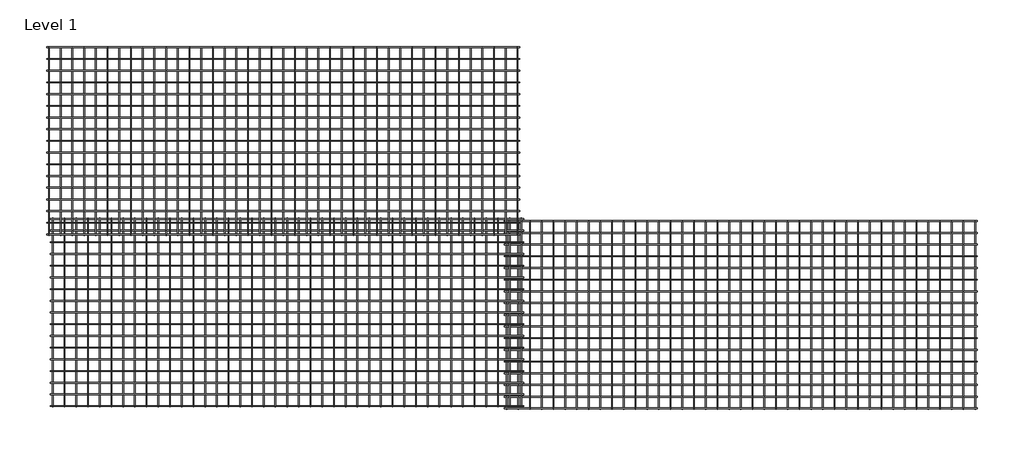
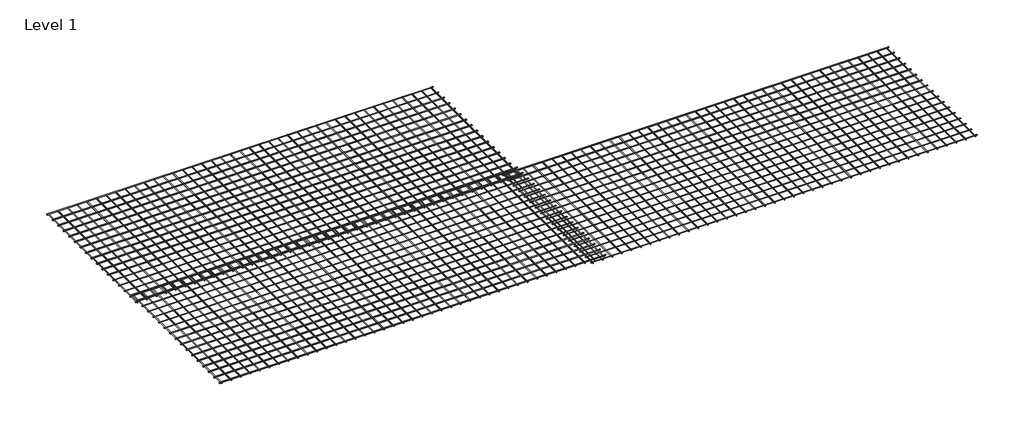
# One storey: 3 proxies.
"""IFC4 building model written with IfcOpenShell, lengths in millimetres."""

import ifcopenshell
import ifcopenshell.guid

model = None  # the IFC model being written
_history = None  # IfcOwnerHistory: only IFC2X3 demands one
_inside = {}  # id of a spatial element -> (the spatial element, [elements in it])
_under = {}  # id of a project, library or spatial element -> (it, [spatial elements below it])
_declared = {}  # id of a project -> (the project, [libraries it declares])
_typed = {}  # id of a type object -> (the type object, [elements of that type])
_made_of = {}  # id of a material, layer set ... -> (it, [elements and type objects made of it])


def new_model(schema):
    """Start an empty IFC model of exactly this schema.

    Asked for "IFC4X3", IfcOpenShell would pick the latest addendum, in which some entities
    have other attributes; the version numbers below select the first issue.
    IFC2X3 requires an IfcOwnerHistory on every rooted entity: one is made here for all.
    """
    global model, _history
    if schema == "IFC4X3":
        model = ifcopenshell.file(schema_version=(4, 3, 0, 0))
    else:
        model = ifcopenshell.file(schema=schema)
    _inside.clear()
    _under.clear()
    _declared.clear()
    _typed.clear()
    _made_of.clear()
    _history = None
    if model.schema == "IFC2X3":
        org = make("IfcOrganization", Name="unknown")
        user = make(
            "IfcPersonAndOrganization",
            ThePerson=make("IfcPerson", FamilyName="unknown"),
            TheOrganization=org,
        )
        app = make(
            "IfcApplication",
            ApplicationDeveloper=org,
            Version="unknown",
            ApplicationFullName="unknown",
            ApplicationIdentifier="unknown",
        )
        _history = make(
            "IfcOwnerHistory",
            OwningUser=user,
            OwningApplication=app,
            ChangeAction="ADDED",
            CreationDate=0,
        )
    return model


def make(cls, **values):
    """One entity of the class cls with the attributes given. An attribute that is None is left unset."""
    return model.create_entity(
        cls, **{name: value for name, value in values.items() if value is not None}
    )


def rooted(cls, **values):
    """An entity with a GlobalId (a new one), such as an element, a storey or a relation."""
    return make(cls, GlobalId=ifcopenshell.guid.new(), OwnerHistory=_history, **values)


def si_unit(unit_type, name, prefix=None):
    """IfcSIUnit, for example si_unit("LENGTHUNIT", "METRE", prefix="MILLI")."""
    return make("IfcSIUnit", UnitType=unit_type, Prefix=prefix, Name=name)


def assignment(units):
    """IfcUnitAssignment: the units of a project."""
    return None if units is None else make("IfcUnitAssignment", Units=units)


def point(xyz):
    """IfcCartesianPoint."""
    return None if xyz is None else make("IfcCartesianPoint", Coordinates=xyz)


def direction(xyz):
    """IfcDirection."""
    return None if xyz is None else make("IfcDirection", DirectionRatios=xyz)


def frame(location, z_axis=None, x_axis=None):
    """IfcAxis2Placement3D, a coordinate frame: its origin and axes. An axis left out is left unset."""
    return make(
        "IfcAxis2Placement3D",
        Location=point(location),
        Axis=direction(z_axis),
        RefDirection=direction(x_axis),
    )


def frame_2d(location, x_axis=None):
    """IfcAxis2Placement2D, a coordinate frame in the plane: its origin and x axis."""
    return make(
        "IfcAxis2Placement2D", Location=point(location), RefDirection=direction(x_axis)
    )


def origin():
    """The frame at (0, 0, 0) with its axes left unset."""
    return frame((0.0, 0.0, 0.0))


def place(relative_to, where):
    """IfcLocalPlacement: puts the frame where relative to a parent placement (None: the world)."""
    return make(
        "IfcLocalPlacement", PlacementRelTo=relative_to, RelativePlacement=where
    )


def context(
    kind, dimensions, precision=None, world=None, true_north=None, identifier=None
):
    """IfcGeometricRepresentationContext, for example the 3D "Model" context."""
    return make(
        "IfcGeometricRepresentationContext",
        ContextIdentifier=identifier,
        ContextType=kind,
        CoordinateSpaceDimension=dimensions,
        Precision=precision,
        WorldCoordinateSystem=world,
        TrueNorth=true_north,
    )


def project(units=None, contexts=None):
    """IfcProject with its units and contexts."""
    return rooted(
        "IfcProject",
        Name="project",
        RepresentationContexts=contexts,
        UnitsInContext=assignment(units),
    )


def spatial(cls, under=None, at=None, **own):
    """A site, building, storey or space (cls), placed at a placement, below another one or the project."""
    s = rooted(cls, ObjectPlacement=at, **own)
    if under is not None:
        _under.setdefault(under.id(), (under, []))[1].append(s)
    return s


def circle_curve(where, radius):
    """IfcCircle in the frame where."""
    return make("IfcCircle", Position=where, Radius=radius)


def trimmed(basis, trim1, trim2, sense, master):
    """IfcTrimmedCurve: the piece of a basis curve between two trims."""
    return make(
        "IfcTrimmedCurve",
        BasisCurve=basis,
        Trim1=trim1,
        Trim2=trim2,
        SenseAgreement=sense,
        MasterRepresentation=master,
    )


def segment(curve, same_sense, transition):
    """IfcCompositeCurveSegment."""
    return make(
        "IfcCompositeCurveSegment",
        Transition=transition,
        SameSense=same_sense,
        ParentCurve=curve,
    )


def composite_curve(segments, self_intersect=None):
    """IfcCompositeCurve: segments joined end to end."""
    return make("IfcCompositeCurve", Segments=segments, SelfIntersect=self_intersect)


def outline(outer, holes=None, kind="AREA"):
    """IfcArbitraryClosedProfileDef: a profile drawn as a closed curve; with holes, ...WithVoids."""
    if holes is None:
        return make("IfcArbitraryClosedProfileDef", ProfileType=kind, OuterCurve=outer)
    return make(
        "IfcArbitraryProfileDefWithVoids",
        ProfileType=kind,
        OuterCurve=outer,
        InnerCurves=holes,
    )


def extrude(swept, where, along, depth):
    """IfcExtrudedAreaSolid: the profile swept, set in the frame where, extruded along a direction by depth."""
    return make(
        "IfcExtrudedAreaSolid",
        SweptArea=swept,
        Position=where,
        ExtrudedDirection=direction(along),
        Depth=depth,
    )


def shape(context_of_items, identifier, shape_type, items):
    """IfcShapeRepresentation: the items that make up one representation, for example the "Body"."""
    return make(
        "IfcShapeRepresentation",
        ContextOfItems=context_of_items,
        RepresentationIdentifier=identifier,
        RepresentationType=shape_type,
        Items=items,
    )


def source(mapping_origin, context_of_items, identifier, shape_type, items):
    """IfcRepresentationMap: a shape defined once, which mapped items show again and again."""
    return make(
        "IfcRepresentationMap",
        MappingOrigin=mapping_origin,
        MappedRepresentation=shape(context_of_items, identifier, shape_type, items),
    )


def transform(
    local_origin,
    x_axis=None,
    y_axis=None,
    z_axis=None,
    scale=None,
    scale2=None,
    scale3=None,
    uniform=True,
):
    """IfcCartesianTransformationOperator3D, or its non-uniform kind. x_axis, y_axis, z_axis: its Axis1, 2, 3."""
    if uniform:
        return make(
            "IfcCartesianTransformationOperator3D",
            Axis1=direction(x_axis),
            Axis2=direction(y_axis),
            LocalOrigin=point(local_origin),
            Scale=scale,
            Axis3=direction(z_axis),
        )
    return make(
        "IfcCartesianTransformationOperator3DnonUniform",
        Axis1=direction(x_axis),
        Axis2=direction(y_axis),
        LocalOrigin=point(local_origin),
        Scale=scale,
        Axis3=direction(z_axis),
        Scale2=scale2,
        Scale3=scale3,
    )


def mapped(mapping_source, mapping_target):
    """IfcMappedItem: shows the shape of a source again, moved by a transform."""
    return make(
        "IfcMappedItem", MappingSource=mapping_source, MappingTarget=mapping_target
    )


def made_of(thing, what):
    """Note that an element or type object is made of a material, layer set ...; save() writes the relation."""
    if what is not None:
        _made_of.setdefault(what.id(), (what, []))[1].append(thing)
    return thing


def element(
    cls,
    number,
    at=None,
    inside=None,
    cuts=None,
    type_object=None,
    material=None,
    context=None,
    identifier="Body",
    shape_type=None,
    held_by="IfcProductDefinitionShape",
    body=None,
    shapes=None,
    **own,
):
    """One element of the class cls, such as IfcWall. Its Tag is "e" and its number.

    at: its placement. inside: the storey or other place that contains it. cuts: it is an
    opening in that element (IfcRelVoidsElement). A single representation is given by context,
    identifier, shape_type and body (its items); several are given by shapes. held_by: the class
    of the entity that holds the representations. save() writes the other relations.
    """
    e = rooted(cls, Tag="e%d" % number, ObjectPlacement=at, **own)
    if body is not None:
        shapes = [shape(context, identifier, shape_type, body)]
    if shapes is not None:
        e.Representation = make(held_by, Representations=shapes)
    if inside is not None:
        _inside.setdefault(inside.id(), (inside, []))[1].append(e)
    if cuts is not None:
        rooted(
            "IfcRelVoidsElement", RelatingBuildingElement=cuts, RelatedOpeningElement=e
        )
    if type_object is not None:
        _typed.setdefault(type_object.id(), (type_object, []))[1].append(e)
    return made_of(e, material)


def aggregate(whole, parts):
    """IfcRelAggregates: a whole, such as a stair, and the parts it consists of."""
    return rooted("IfcRelAggregates", RelatingObject=whole, RelatedObjects=parts)


def save(model, path):
    """Write the relations noted so far, then the file.

    IfcRelAggregates (storeys below a building ...), IfcRelContainedInSpatialStructure (elements
    in a storey), IfcRelDefinesByType, IfcRelAssociatesMaterial and IfcRelDeclares: one each for
    every whole, place, type object, material and project.
    """
    for whole, parts in _under.values():
        aggregate(whole, parts)
    for where, things in _inside.values():
        rooted(
            "IfcRelContainedInSpatialStructure",
            RelatedElements=things,
            RelatingStructure=where,
        )
    for kind, things in _typed.values():
        rooted("IfcRelDefinesByType", RelatedObjects=things, RelatingType=kind)
    for what, things in _made_of.values():
        rooted("IfcRelAssociatesMaterial", RelatedObjects=things, RelatingMaterial=what)
    for by, libraries in _declared.values():
        rooted("IfcRelDeclares", RelatingContext=by, RelatedDefinitions=libraries)
    model.write(path)


def united_steel_665_large_mesh_united_steel_665_large_mesh_bb33bdd1(model_context):
    return source(origin(), model_context, "Body", "SweptSolid", [
        extrude(outline(composite_curve([segment(trimmed(circle_curve(frame_2d((-160.2412954, 15.8848475)), 5.3), [point((-165.5412954, 15.8848475))], [point((-154.9412954, 15.8848475))], False, "CARTESIAN"), True, "CONTINUOUS"), segment(trimmed(circle_curve(frame_2d((-160.2412954, 15.8848475)), 5.3), [point((-154.9412954, 15.8848475))], [point((-165.5412954, 15.8848475))], False, "CARTESIAN"), True, "CONTINUOUS")], self_intersect=False)), frame((-6060.0, 0.0, 0.0), z_axis=(1.0, 0.0, 0.0), x_axis=(0.0, 1.0, 0.0)), (0.0, 0.0, 1.0), 6060.0),
        extrude(outline(composite_curve([segment(trimmed(circle_curve(frame_2d((-310.2279647, 15.8848475)), 5.3), [point((-315.5279647, 15.8848475))], [point((-304.9279647, 15.8848475))], False, "CARTESIAN"), True, "CONTINUOUS"), segment(trimmed(circle_curve(frame_2d((-310.2279647, 15.8848475)), 5.3), [point((-304.9279647, 15.8848475))], [point((-315.5279647, 15.8848475))], False, "CARTESIAN"), True, "CONTINUOUS")], self_intersect=False)), frame((-6060.0, 0.0, 0.0), z_axis=(1.0, 0.0, 0.0), x_axis=(0.0, 1.0, 0.0)), (0.0, 0.0, 1.0), 6060.0),
        extrude(outline(composite_curve([segment(trimmed(circle_curve(frame_2d((-460.214634, 15.8848475)), 5.3), [point((-465.514634, 15.8848475))], [point((-454.914634, 15.8848475))], False, "CARTESIAN"), True, "CONTINUOUS"), segment(trimmed(circle_curve(frame_2d((-460.214634, 15.8848475)), 5.3), [point((-454.914634, 15.8848475))], [point((-465.514634, 15.8848475))], False, "CARTESIAN"), True, "CONTINUOUS")], self_intersect=False)), frame((-6060.0, 0.0, 0.0), z_axis=(1.0, 0.0, 0.0), x_axis=(0.0, 1.0, 0.0)), (0.0, 0.0, 1.0), 6060.0),
        extrude(outline(composite_curve([segment(trimmed(circle_curve(frame_2d((5.2898928, -5879.1179494)), 5.3), [point((5.2898928, -5884.4179494))], [point((5.2898928, -5873.8179494))], False, "CARTESIAN"), True, "CONTINUOUS"), segment(trimmed(circle_curve(frame_2d((5.2898928, -5879.1179494)), 5.3), [point((5.2898928, -5873.8179494))], [point((5.2898928, -5884.4179494))], False, "CARTESIAN"), True, "CONTINUOUS")], self_intersect=False)), frame((0.0, -2420.0, 0.0), z_axis=(0.0, 1.0, 0.0), x_axis=(0.0, 0.0, 1.0)), (0.0, 0.0, 1.0), 2420.0),
        extrude(outline(composite_curve([segment(trimmed(circle_curve(frame_2d((5.2898928, -5729.136548)), 5.3), [point((5.2898928, -5734.436548))], [point((5.2898928, -5723.836548))], False, "CARTESIAN"), True, "CONTINUOUS"), segment(trimmed(circle_curve(frame_2d((5.2898928, -5729.136548)), 5.3), [point((5.2898928, -5723.836548))], [point((5.2898928, -5734.436548))], False, "CARTESIAN"), True, "CONTINUOUS")], self_intersect=False)), frame((0.0, -2420.0, 0.0), z_axis=(0.0, 1.0, 0.0), x_axis=(0.0, 0.0, 1.0)), (0.0, 0.0, 1.0), 2420.0),
        extrude(outline(composite_curve([segment(trimmed(circle_curve(frame_2d((5.2898928, -5579.1551467)), 5.3), [point((5.2898928, -5584.4551467))], [point((5.2898928, -5573.8551467))], False, "CARTESIAN"), True, "CONTINUOUS"), segment(trimmed(circle_curve(frame_2d((5.2898928, -5579.1551467)), 5.3), [point((5.2898928, -5573.8551467))], [point((5.2898928, -5584.4551467))], False, "CARTESIAN"), True, "CONTINUOUS")], self_intersect=False)), frame((0.0, -2420.0, 0.0), z_axis=(0.0, 1.0, 0.0), x_axis=(0.0, 0.0, 1.0)), (0.0, 0.0, 1.0), 2420.0),
        extrude(outline(composite_curve([segment(trimmed(circle_curve(frame_2d((5.2898928, -5429.1737454)), 5.3), [point((5.2898928, -5434.4737454))], [point((5.2898928, -5423.8737454))], False, "CARTESIAN"), True, "CONTINUOUS"), segment(trimmed(circle_curve(frame_2d((5.2898928, -5429.1737454)), 5.3), [point((5.2898928, -5423.8737454))], [point((5.2898928, -5434.4737454))], False, "CARTESIAN"), True, "CONTINUOUS")], self_intersect=False)), frame((0.0, -2420.0, 0.0), z_axis=(0.0, 1.0, 0.0), x_axis=(0.0, 0.0, 1.0)), (0.0, 0.0, 1.0), 2420.0),
        extrude(outline(composite_curve([segment(trimmed(circle_curve(frame_2d((5.2898928, -5279.1923441)), 5.3), [point((5.2898928, -5284.4923441))], [point((5.2898928, -5273.8923441))], False, "CARTESIAN"), True, "CONTINUOUS"), segment(trimmed(circle_curve(frame_2d((5.2898928, -5279.1923441)), 5.3), [point((5.2898928, -5273.8923441))], [point((5.2898928, -5284.4923441))], False, "CARTESIAN"), True, "CONTINUOUS")], self_intersect=False)), frame((0.0, -2420.0, 0.0), z_axis=(0.0, 1.0, 0.0), x_axis=(0.0, 0.0, 1.0)), (0.0, 0.0, 1.0), 2420.0),
        extrude(outline(composite_curve([segment(trimmed(circle_curve(frame_2d((5.2898928, -5129.2109428)), 5.3), [point((5.2898928, -5134.5109428))], [point((5.2898928, -5123.9109428))], False, "CARTESIAN"), True, "CONTINUOUS"), segment(trimmed(circle_curve(frame_2d((5.2898928, -5129.2109428)), 5.3), [point((5.2898928, -5123.9109428))], [point((5.2898928, -5134.5109428))], False, "CARTESIAN"), True, "CONTINUOUS")], self_intersect=False)), frame((0.0, -2420.0, 0.0), z_axis=(0.0, 1.0, 0.0), x_axis=(0.0, 0.0, 1.0)), (0.0, 0.0, 1.0), 2420.0),
        extrude(outline(composite_curve([segment(trimmed(circle_curve(frame_2d((5.2898928, -4979.2295415)), 5.3), [point((5.2898928, -4984.5295415))], [point((5.2898928, -4973.9295415))], False, "CARTESIAN"), True, "CONTINUOUS"), segment(trimmed(circle_curve(frame_2d((5.2898928, -4979.2295415)), 5.3), [point((5.2898928, -4973.9295415))], [point((5.2898928, -4984.5295415))], False, "CARTESIAN"), True, "CONTINUOUS")], self_intersect=False)), frame((0.0, -2420.0, 0.0), z_axis=(0.0, 1.0, 0.0), x_axis=(0.0, 0.0, 1.0)), (0.0, 0.0, 1.0), 2420.0),
        extrude(outline(composite_curve([segment(trimmed(circle_curve(frame_2d((5.2898928, -4829.2481401)), 5.3), [point((5.2898928, -4834.5481401))], [point((5.2898928, -4823.9481401))], False, "CARTESIAN"), True, "CONTINUOUS"), segment(trimmed(circle_curve(frame_2d((5.2898928, -4829.2481401)), 5.3), [point((5.2898928, -4823.9481401))], [point((5.2898928, -4834.5481401))], False, "CARTESIAN"), True, "CONTINUOUS")], self_intersect=False)), frame((0.0, -2420.0, 0.0), z_axis=(0.0, 1.0, 0.0), x_axis=(0.0, 0.0, 1.0)), (0.0, 0.0, 1.0), 2420.0),
        extrude(outline(composite_curve([segment(trimmed(circle_curve(frame_2d((5.2898928, -4679.2667388)), 5.3), [point((5.2898928, -4684.5667388))], [point((5.2898928, -4673.9667388))], False, "CARTESIAN"), True, "CONTINUOUS"), segment(trimmed(circle_curve(frame_2d((5.2898928, -4679.2667388)), 5.3), [point((5.2898928, -4673.9667388))], [point((5.2898928, -4684.5667388))], False, "CARTESIAN"), True, "CONTINUOUS")], self_intersect=False)), frame((0.0, -2420.0, 0.0), z_axis=(0.0, 1.0, 0.0), x_axis=(0.0, 0.0, 1.0)), (0.0, 0.0, 1.0), 2420.0),
        extrude(outline(composite_curve([segment(trimmed(circle_curve(frame_2d((5.2898928, -4529.2853375)), 5.3), [point((5.2898928, -4534.5853375))], [point((5.2898928, -4523.9853375))], False, "CARTESIAN"), True, "CONTINUOUS"), segment(trimmed(circle_curve(frame_2d((5.2898928, -4529.2853375)), 5.3), [point((5.2898928, -4523.9853375))], [point((5.2898928, -4534.5853375))], False, "CARTESIAN"), True, "CONTINUOUS")], self_intersect=False)), frame((0.0, -2420.0, 0.0), z_axis=(0.0, 1.0, 0.0), x_axis=(0.0, 0.0, 1.0)), (0.0, 0.0, 1.0), 2420.0),
        extrude(outline(composite_curve([segment(trimmed(circle_curve(frame_2d((-610.2013032, 15.8848475)), 5.3), [point((-615.5013032, 15.8848475))], [point((-604.9013032, 15.8848475))], False, "CARTESIAN"), True, "CONTINUOUS"), segment(trimmed(circle_curve(frame_2d((-610.2013032, 15.8848475)), 5.3), [point((-604.9013032, 15.8848475))], [point((-615.5013032, 15.8848475))], False, "CARTESIAN"), True, "CONTINUOUS")], self_intersect=False)), frame((-6060.0, 0.0, 0.0), z_axis=(1.0, 0.0, 0.0), x_axis=(0.0, 1.0, 0.0)), (0.0, 0.0, 1.0), 6060.0),
        extrude(outline(composite_curve([segment(trimmed(circle_curve(frame_2d((5.2898928, -4379.3039362)), 5.3), [point((5.2898928, -4384.6039362))], [point((5.2898928, -4374.0039362))], False, "CARTESIAN"), True, "CONTINUOUS"), segment(trimmed(circle_curve(frame_2d((5.2898928, -4379.3039362)), 5.3), [point((5.2898928, -4374.0039362))], [point((5.2898928, -4384.6039362))], False, "CARTESIAN"), True, "CONTINUOUS")], self_intersect=False)), frame((0.0, -2420.0, 0.0), z_axis=(0.0, 1.0, 0.0), x_axis=(0.0, 0.0, 1.0)), (0.0, 0.0, 1.0), 2420.0),
        extrude(outline(composite_curve([segment(trimmed(circle_curve(frame_2d((-760.1879725, 15.8848475)), 5.3), [point((-765.4879725, 15.8848475))], [point((-754.8879725, 15.8848475))], False, "CARTESIAN"), True, "CONTINUOUS"), segment(trimmed(circle_curve(frame_2d((-760.1879725, 15.8848475)), 5.3), [point((-754.8879725, 15.8848475))], [point((-765.4879725, 15.8848475))], False, "CARTESIAN"), True, "CONTINUOUS")], self_intersect=False)), frame((-6060.0, 0.0, 0.0), z_axis=(1.0, 0.0, 0.0), x_axis=(0.0, 1.0, 0.0)), (0.0, 0.0, 1.0), 6060.0),
        extrude(outline(composite_curve([segment(trimmed(circle_curve(frame_2d((-910.1746417, 15.8848475)), 5.3), [point((-915.4746417, 15.8848475))], [point((-904.8746417, 15.8848475))], False, "CARTESIAN"), True, "CONTINUOUS"), segment(trimmed(circle_curve(frame_2d((-910.1746417, 15.8848475)), 5.3), [point((-904.8746417, 15.8848475))], [point((-915.4746417, 15.8848475))], False, "CARTESIAN"), True, "CONTINUOUS")], self_intersect=False)), frame((-6060.0, 0.0, 0.0), z_axis=(1.0, 0.0, 0.0), x_axis=(0.0, 1.0, 0.0)), (0.0, 0.0, 1.0), 6060.0),
        extrude(outline(composite_curve([segment(trimmed(circle_curve(frame_2d((5.2898928, -4229.3225349)), 5.3), [point((5.2898928, -4234.6225349))], [point((5.2898928, -4224.0225349))], False, "CARTESIAN"), True, "CONTINUOUS"), segment(trimmed(circle_curve(frame_2d((5.2898928, -4229.3225349)), 5.3), [point((5.2898928, -4224.0225349))], [point((5.2898928, -4234.6225349))], False, "CARTESIAN"), True, "CONTINUOUS")], self_intersect=False)), frame((0.0, -2420.0, 0.0), z_axis=(0.0, 1.0, 0.0), x_axis=(0.0, 0.0, 1.0)), (0.0, 0.0, 1.0), 2420.0),
        extrude(outline(composite_curve([segment(trimmed(circle_curve(frame_2d((5.2898928, -4079.3411336)), 5.3), [point((5.2898928, -4084.6411336))], [point((5.2898928, -4074.0411336))], False, "CARTESIAN"), True, "CONTINUOUS"), segment(trimmed(circle_curve(frame_2d((5.2898928, -4079.3411336)), 5.3), [point((5.2898928, -4074.0411336))], [point((5.2898928, -4084.6411336))], False, "CARTESIAN"), True, "CONTINUOUS")], self_intersect=False)), frame((0.0, -2420.0, 0.0), z_axis=(0.0, 1.0, 0.0), x_axis=(0.0, 0.0, 1.0)), (0.0, 0.0, 1.0), 2420.0),
        extrude(outline(composite_curve([segment(trimmed(circle_curve(frame_2d((5.2898928, -3929.3597323)), 5.3), [point((5.2898928, -3934.6597323))], [point((5.2898928, -3924.0597323))], False, "CARTESIAN"), True, "CONTINUOUS"), segment(trimmed(circle_curve(frame_2d((5.2898928, -3929.3597323)), 5.3), [point((5.2898928, -3924.0597323))], [point((5.2898928, -3934.6597323))], False, "CARTESIAN"), True, "CONTINUOUS")], self_intersect=False)), frame((0.0, -2420.0, 0.0), z_axis=(0.0, 1.0, 0.0), x_axis=(0.0, 0.0, 1.0)), (0.0, 0.0, 1.0), 2420.0),
        extrude(outline(composite_curve([segment(trimmed(circle_curve(frame_2d((5.2898928, -3779.3783309)), 5.3), [point((5.2898928, -3784.6783309))], [point((5.2898928, -3774.0783309))], False, "CARTESIAN"), True, "CONTINUOUS"), segment(trimmed(circle_curve(frame_2d((5.2898928, -3779.3783309)), 5.3), [point((5.2898928, -3774.0783309))], [point((5.2898928, -3784.6783309))], False, "CARTESIAN"), True, "CONTINUOUS")], self_intersect=False)), frame((0.0, -2420.0, 0.0), z_axis=(0.0, 1.0, 0.0), x_axis=(0.0, 0.0, 1.0)), (0.0, 0.0, 1.0), 2420.0),
        extrude(outline(composite_curve([segment(trimmed(circle_curve(frame_2d((5.2898928, -3629.3969296)), 5.3), [point((5.2898928, -3634.6969296))], [point((5.2898928, -3624.0969296))], False, "CARTESIAN"), True, "CONTINUOUS"), segment(trimmed(circle_curve(frame_2d((5.2898928, -3629.3969296)), 5.3), [point((5.2898928, -3624.0969296))], [point((5.2898928, -3634.6969296))], False, "CARTESIAN"), True, "CONTINUOUS")], self_intersect=False)), frame((0.0, -2420.0, 0.0), z_axis=(0.0, 1.0, 0.0), x_axis=(0.0, 0.0, 1.0)), (0.0, 0.0, 1.0), 2420.0),
        extrude(outline(composite_curve([segment(trimmed(circle_curve(frame_2d((5.2898928, -3479.4155283)), 5.3), [point((5.2898928, -3484.7155283))], [point((5.2898928, -3474.1155283))], False, "CARTESIAN"), True, "CONTINUOUS"), segment(trimmed(circle_curve(frame_2d((5.2898928, -3479.4155283)), 5.3), [point((5.2898928, -3474.1155283))], [point((5.2898928, -3484.7155283))], False, "CARTESIAN"), True, "CONTINUOUS")], self_intersect=False)), frame((0.0, -2420.0, 0.0), z_axis=(0.0, 1.0, 0.0), x_axis=(0.0, 0.0, 1.0)), (0.0, 0.0, 1.0), 2420.0),
        extrude(outline(composite_curve([segment(trimmed(circle_curve(frame_2d((5.2898928, -3329.434127)), 5.3), [point((5.2898928, -3334.734127))], [point((5.2898928, -3324.134127))], False, "CARTESIAN"), True, "CONTINUOUS"), segment(trimmed(circle_curve(frame_2d((5.2898928, -3329.434127)), 5.3), [point((5.2898928, -3324.134127))], [point((5.2898928, -3334.734127))], False, "CARTESIAN"), True, "CONTINUOUS")], self_intersect=False)), frame((0.0, -2420.0, 0.0), z_axis=(0.0, 1.0, 0.0), x_axis=(0.0, 0.0, 1.0)), (0.0, 0.0, 1.0), 2420.0),
        extrude(outline(composite_curve([segment(trimmed(circle_curve(frame_2d((-1060.161311, 15.8848475)), 5.3), [point((-1065.461311, 15.8848475))], [point((-1054.861311, 15.8848475))], False, "CARTESIAN"), True, "CONTINUOUS"), segment(trimmed(circle_curve(frame_2d((-1060.161311, 15.8848475)), 5.3), [point((-1054.861311, 15.8848475))], [point((-1065.461311, 15.8848475))], False, "CARTESIAN"), True, "CONTINUOUS")], self_intersect=False)), frame((-6060.0, 0.0, 0.0), z_axis=(1.0, 0.0, 0.0), x_axis=(0.0, 1.0, 0.0)), (0.0, 0.0, 1.0), 6060.0),
        extrude(outline(composite_curve([segment(trimmed(circle_curve(frame_2d((-1210.1479802, 15.8848475)), 5.3), [point((-1215.4479802, 15.8848475))], [point((-1204.8479802, 15.8848475))], False, "CARTESIAN"), True, "CONTINUOUS"), segment(trimmed(circle_curve(frame_2d((-1210.1479802, 15.8848475)), 5.3), [point((-1204.8479802, 15.8848475))], [point((-1215.4479802, 15.8848475))], False, "CARTESIAN"), True, "CONTINUOUS")], self_intersect=False)), frame((-6060.0, 0.0, 0.0), z_axis=(1.0, 0.0, 0.0), x_axis=(0.0, 1.0, 0.0)), (0.0, 0.0, 1.0), 6060.0),
        extrude(outline(composite_curve([segment(trimmed(circle_curve(frame_2d((-1360.1346495, 15.8848475)), 5.3), [point((-1365.4346495, 15.8848475))], [point((-1354.8346495, 15.8848475))], False, "CARTESIAN"), True, "CONTINUOUS"), segment(trimmed(circle_curve(frame_2d((-1360.1346495, 15.8848475)), 5.3), [point((-1354.8346495, 15.8848475))], [point((-1365.4346495, 15.8848475))], False, "CARTESIAN"), True, "CONTINUOUS")], self_intersect=False)), frame((-6060.0, 0.0, 0.0), z_axis=(1.0, 0.0, 0.0), x_axis=(0.0, 1.0, 0.0)), (0.0, 0.0, 1.0), 6060.0),
        extrude(outline(composite_curve([segment(trimmed(circle_curve(frame_2d((-1510.1213187, 15.8848475)), 5.3), [point((-1515.4213187, 15.8848475))], [point((-1504.8213187, 15.8848475))], False, "CARTESIAN"), True, "CONTINUOUS"), segment(trimmed(circle_curve(frame_2d((-1510.1213187, 15.8848475)), 5.3), [point((-1504.8213187, 15.8848475))], [point((-1515.4213187, 15.8848475))], False, "CARTESIAN"), True, "CONTINUOUS")], self_intersect=False)), frame((-6060.0, 0.0, 0.0), z_axis=(1.0, 0.0, 0.0), x_axis=(0.0, 1.0, 0.0)), (0.0, 0.0, 1.0), 6060.0),
        extrude(outline(composite_curve([segment(trimmed(circle_curve(frame_2d((-1660.107988, 15.8848475)), 5.3), [point((-1665.407988, 15.8848475))], [point((-1654.807988, 15.8848475))], False, "CARTESIAN"), True, "CONTINUOUS"), segment(trimmed(circle_curve(frame_2d((-1660.107988, 15.8848475)), 5.3), [point((-1654.807988, 15.8848475))], [point((-1665.407988, 15.8848475))], False, "CARTESIAN"), True, "CONTINUOUS")], self_intersect=False)), frame((-6060.0, 0.0, 0.0), z_axis=(1.0, 0.0, 0.0), x_axis=(0.0, 1.0, 0.0)), (0.0, 0.0, 1.0), 6060.0),
        extrude(outline(composite_curve([segment(trimmed(circle_curve(frame_2d((-1810.0946573, 15.8848475)), 5.3), [point((-1815.3946573, 15.8848475))], [point((-1804.7946573, 15.8848475))], False, "CARTESIAN"), True, "CONTINUOUS"), segment(trimmed(circle_curve(frame_2d((-1810.0946573, 15.8848475)), 5.3), [point((-1804.7946573, 15.8848475))], [point((-1815.3946573, 15.8848475))], False, "CARTESIAN"), True, "CONTINUOUS")], self_intersect=False)), frame((-6060.0, 0.0, 0.0), z_axis=(1.0, 0.0, 0.0), x_axis=(0.0, 1.0, 0.0)), (0.0, 0.0, 1.0), 6060.0),
        extrude(outline(composite_curve([segment(trimmed(circle_curve(frame_2d((-1960.0813265, 15.8848475)), 5.3), [point((-1965.3813265, 15.8848475))], [point((-1954.7813265, 15.8848475))], False, "CARTESIAN"), True, "CONTINUOUS"), segment(trimmed(circle_curve(frame_2d((-1960.0813265, 15.8848475)), 5.3), [point((-1954.7813265, 15.8848475))], [point((-1965.3813265, 15.8848475))], False, "CARTESIAN"), True, "CONTINUOUS")], self_intersect=False)), frame((-6060.0, 0.0, 0.0), z_axis=(1.0, 0.0, 0.0), x_axis=(0.0, 1.0, 0.0)), (0.0, 0.0, 1.0), 6060.0),
        extrude(outline(composite_curve([segment(trimmed(circle_curve(frame_2d((-2110.0679958, 15.8848475)), 5.3), [point((-2115.3679958, 15.8848475))], [point((-2104.7679958, 15.8848475))], False, "CARTESIAN"), True, "CONTINUOUS"), segment(trimmed(circle_curve(frame_2d((-2110.0679958, 15.8848475)), 5.3), [point((-2104.7679958, 15.8848475))], [point((-2115.3679958, 15.8848475))], False, "CARTESIAN"), True, "CONTINUOUS")], self_intersect=False)), frame((-6060.0, 0.0, 0.0), z_axis=(1.0, 0.0, 0.0), x_axis=(0.0, 1.0, 0.0)), (0.0, 0.0, 1.0), 6060.0),
        extrude(outline(composite_curve([segment(trimmed(circle_curve(frame_2d((-2260.054665, 15.8848475)), 5.3), [point((-2265.354665, 15.8848475))], [point((-2254.754665, 15.8848475))], False, "CARTESIAN"), True, "CONTINUOUS"), segment(trimmed(circle_curve(frame_2d((-2260.054665, 15.8848475)), 5.3), [point((-2254.754665, 15.8848475))], [point((-2265.354665, 15.8848475))], False, "CARTESIAN"), True, "CONTINUOUS")], self_intersect=False)), frame((-6060.0, 0.0, 0.0), z_axis=(1.0, 0.0, 0.0), x_axis=(0.0, 1.0, 0.0)), (0.0, 0.0, 1.0), 6060.0),
        extrude(outline(composite_curve([segment(trimmed(circle_curve(frame_2d((-10.2546262, 15.8848475)), 5.3), [point((-15.5546262, 15.8848475))], [point((-4.9546262, 15.8848475))], False, "CARTESIAN"), True, "CONTINUOUS"), segment(trimmed(circle_curve(frame_2d((-10.2546262, 15.8848475)), 5.3), [point((-4.9546262, 15.8848475))], [point((-15.5546262, 15.8848475))], False, "CARTESIAN"), True, "CONTINUOUS")], self_intersect=False)), frame((-6060.0, 0.0, 0.0), z_axis=(1.0, 0.0, 0.0), x_axis=(0.0, 1.0, 0.0)), (0.0, 0.0, 1.0), 6060.0),
        extrude(outline(composite_curve([segment(trimmed(circle_curve(frame_2d((-2410.0413343, 15.8848475)), 5.3), [point((-2415.3413343, 15.8848475))], [point((-2404.7413343, 15.8848475))], False, "CARTESIAN"), True, "CONTINUOUS"), segment(trimmed(circle_curve(frame_2d((-2410.0413343, 15.8848475)), 5.3), [point((-2404.7413343, 15.8848475))], [point((-2415.3413343, 15.8848475))], False, "CARTESIAN"), True, "CONTINUOUS")], self_intersect=False)), frame((-6060.0, 0.0, 0.0), z_axis=(1.0, 0.0, 0.0), x_axis=(0.0, 1.0, 0.0)), (0.0, 0.0, 1.0), 6060.0),
        extrude(outline(composite_curve([segment(trimmed(circle_curve(frame_2d((5.2898928, -3179.4527257)), 5.3), [point((5.2898928, -3184.7527257))], [point((5.2898928, -3174.1527257))], False, "CARTESIAN"), True, "CONTINUOUS"), segment(trimmed(circle_curve(frame_2d((5.2898928, -3179.4527257)), 5.3), [point((5.2898928, -3174.1527257))], [point((5.2898928, -3184.7527257))], False, "CARTESIAN"), True, "CONTINUOUS")], self_intersect=False)), frame((0.0, -2420.0, 0.0), z_axis=(0.0, 1.0, 0.0), x_axis=(0.0, 0.0, 1.0)), (0.0, 0.0, 1.0), 2420.0),
        extrude(outline(composite_curve([segment(trimmed(circle_curve(frame_2d((5.2898928, -3029.4713244)), 5.3), [point((5.2898928, -3034.7713244))], [point((5.2898928, -3024.1713244))], False, "CARTESIAN"), True, "CONTINUOUS"), segment(trimmed(circle_curve(frame_2d((5.2898928, -3029.4713244)), 5.3), [point((5.2898928, -3024.1713244))], [point((5.2898928, -3034.7713244))], False, "CARTESIAN"), True, "CONTINUOUS")], self_intersect=False)), frame((0.0, -2420.0, 0.0), z_axis=(0.0, 1.0, 0.0), x_axis=(0.0, 0.0, 1.0)), (0.0, 0.0, 1.0), 2420.0),
        extrude(outline(composite_curve([segment(trimmed(circle_curve(frame_2d((5.2898928, -2879.489923)), 5.3), [point((5.2898928, -2884.789923))], [point((5.2898928, -2874.189923))], False, "CARTESIAN"), True, "CONTINUOUS"), segment(trimmed(circle_curve(frame_2d((5.2898928, -2879.489923)), 5.3), [point((5.2898928, -2874.189923))], [point((5.2898928, -2884.789923))], False, "CARTESIAN"), True, "CONTINUOUS")], self_intersect=False)), frame((0.0, -2420.0, 0.0), z_axis=(0.0, 1.0, 0.0), x_axis=(0.0, 0.0, 1.0)), (0.0, 0.0, 1.0), 2420.0),
        extrude(outline(composite_curve([segment(trimmed(circle_curve(frame_2d((5.2898928, -2729.5085217)), 5.3), [point((5.2898928, -2734.8085217))], [point((5.2898928, -2724.2085217))], False, "CARTESIAN"), True, "CONTINUOUS"), segment(trimmed(circle_curve(frame_2d((5.2898928, -2729.5085217)), 5.3), [point((5.2898928, -2724.2085217))], [point((5.2898928, -2734.8085217))], False, "CARTESIAN"), True, "CONTINUOUS")], self_intersect=False)), frame((0.0, -2420.0, 0.0), z_axis=(0.0, 1.0, 0.0), x_axis=(0.0, 0.0, 1.0)), (0.0, 0.0, 1.0), 2420.0),
        extrude(outline(composite_curve([segment(trimmed(circle_curve(frame_2d((5.2898928, -2579.5271204)), 5.3), [point((5.2898928, -2584.8271204))], [point((5.2898928, -2574.2271204))], False, "CARTESIAN"), True, "CONTINUOUS"), segment(trimmed(circle_curve(frame_2d((5.2898928, -2579.5271204)), 5.3), [point((5.2898928, -2574.2271204))], [point((5.2898928, -2584.8271204))], False, "CARTESIAN"), True, "CONTINUOUS")], self_intersect=False)), frame((0.0, -2420.0, 0.0), z_axis=(0.0, 1.0, 0.0), x_axis=(0.0, 0.0, 1.0)), (0.0, 0.0, 1.0), 2420.0),
        extrude(outline(composite_curve([segment(trimmed(circle_curve(frame_2d((5.2898928, -2429.5457191)), 5.3), [point((5.2898928, -2434.8457191))], [point((5.2898928, -2424.2457191))], False, "CARTESIAN"), True, "CONTINUOUS"), segment(trimmed(circle_curve(frame_2d((5.2898928, -2429.5457191)), 5.3), [point((5.2898928, -2424.2457191))], [point((5.2898928, -2434.8457191))], False, "CARTESIAN"), True, "CONTINUOUS")], self_intersect=False)), frame((0.0, -2420.0, 0.0), z_axis=(0.0, 1.0, 0.0), x_axis=(0.0, 0.0, 1.0)), (0.0, 0.0, 1.0), 2420.0),
        extrude(outline(composite_curve([segment(trimmed(circle_curve(frame_2d((5.2898928, -2279.5643178)), 5.3), [point((5.2898928, -2284.8643178))], [point((5.2898928, -2274.2643178))], False, "CARTESIAN"), True, "CONTINUOUS"), segment(trimmed(circle_curve(frame_2d((5.2898928, -2279.5643178)), 5.3), [point((5.2898928, -2274.2643178))], [point((5.2898928, -2284.8643178))], False, "CARTESIAN"), True, "CONTINUOUS")], self_intersect=False)), frame((0.0, -2420.0, 0.0), z_axis=(0.0, 1.0, 0.0), x_axis=(0.0, 0.0, 1.0)), (0.0, 0.0, 1.0), 2420.0),
        extrude(outline(composite_curve([segment(trimmed(circle_curve(frame_2d((5.2898928, -2129.5829165)), 5.3), [point((5.2898928, -2134.8829165))], [point((5.2898928, -2124.2829165))], False, "CARTESIAN"), True, "CONTINUOUS"), segment(trimmed(circle_curve(frame_2d((5.2898928, -2129.5829165)), 5.3), [point((5.2898928, -2124.2829165))], [point((5.2898928, -2134.8829165))], False, "CARTESIAN"), True, "CONTINUOUS")], self_intersect=False)), frame((0.0, -2420.0, 0.0), z_axis=(0.0, 1.0, 0.0), x_axis=(0.0, 0.0, 1.0)), (0.0, 0.0, 1.0), 2420.0),
        extrude(outline(composite_curve([segment(trimmed(circle_curve(frame_2d((5.2898928, -1979.6015152)), 5.3), [point((5.2898928, -1984.9015152))], [point((5.2898928, -1974.3015152))], False, "CARTESIAN"), True, "CONTINUOUS"), segment(trimmed(circle_curve(frame_2d((5.2898928, -1979.6015152)), 5.3), [point((5.2898928, -1974.3015152))], [point((5.2898928, -1984.9015152))], False, "CARTESIAN"), True, "CONTINUOUS")], self_intersect=False)), frame((0.0, -2420.0, 0.0), z_axis=(0.0, 1.0, 0.0), x_axis=(0.0, 0.0, 1.0)), (0.0, 0.0, 1.0), 2420.0),
        extrude(outline(composite_curve([segment(trimmed(circle_curve(frame_2d((5.2898928, -1829.6201138)), 5.3), [point((5.2898928, -1834.9201138))], [point((5.2898928, -1824.3201138))], False, "CARTESIAN"), True, "CONTINUOUS"), segment(trimmed(circle_curve(frame_2d((5.2898928, -1829.6201138)), 5.3), [point((5.2898928, -1824.3201138))], [point((5.2898928, -1834.9201138))], False, "CARTESIAN"), True, "CONTINUOUS")], self_intersect=False)), frame((0.0, -2420.0, 0.0), z_axis=(0.0, 1.0, 0.0), x_axis=(0.0, 0.0, 1.0)), (0.0, 0.0, 1.0), 2420.0),
        extrude(outline(composite_curve([segment(trimmed(circle_curve(frame_2d((5.2898928, -1679.6387125)), 5.3), [point((5.2898928, -1684.9387125))], [point((5.2898928, -1674.3387125))], False, "CARTESIAN"), True, "CONTINUOUS"), segment(trimmed(circle_curve(frame_2d((5.2898928, -1679.6387125)), 5.3), [point((5.2898928, -1674.3387125))], [point((5.2898928, -1684.9387125))], False, "CARTESIAN"), True, "CONTINUOUS")], self_intersect=False)), frame((0.0, -2420.0, 0.0), z_axis=(0.0, 1.0, 0.0), x_axis=(0.0, 0.0, 1.0)), (0.0, 0.0, 1.0), 2420.0),
        extrude(outline(composite_curve([segment(trimmed(circle_curve(frame_2d((5.2898928, -1529.6573112)), 5.3), [point((5.2898928, -1534.9573112))], [point((5.2898928, -1524.3573112))], False, "CARTESIAN"), True, "CONTINUOUS"), segment(trimmed(circle_curve(frame_2d((5.2898928, -1529.6573112)), 5.3), [point((5.2898928, -1524.3573112))], [point((5.2898928, -1534.9573112))], False, "CARTESIAN"), True, "CONTINUOUS")], self_intersect=False)), frame((0.0, -2420.0, 0.0), z_axis=(0.0, 1.0, 0.0), x_axis=(0.0, 0.0, 1.0)), (0.0, 0.0, 1.0), 2420.0),
        extrude(outline(composite_curve([segment(trimmed(circle_curve(frame_2d((5.2898928, -1379.6759099)), 5.3), [point((5.2898928, -1384.9759099))], [point((5.2898928, -1374.3759099))], False, "CARTESIAN"), True, "CONTINUOUS"), segment(trimmed(circle_curve(frame_2d((5.2898928, -1379.6759099)), 5.3), [point((5.2898928, -1374.3759099))], [point((5.2898928, -1384.9759099))], False, "CARTESIAN"), True, "CONTINUOUS")], self_intersect=False)), frame((0.0, -2420.0, 0.0), z_axis=(0.0, 1.0, 0.0), x_axis=(0.0, 0.0, 1.0)), (0.0, 0.0, 1.0), 2420.0),
        extrude(outline(composite_curve([segment(trimmed(circle_curve(frame_2d((5.2898928, -1229.6945086)), 5.3), [point((5.2898928, -1234.9945086))], [point((5.2898928, -1224.3945086))], False, "CARTESIAN"), True, "CONTINUOUS"), segment(trimmed(circle_curve(frame_2d((5.2898928, -1229.6945086)), 5.3), [point((5.2898928, -1224.3945086))], [point((5.2898928, -1234.9945086))], False, "CARTESIAN"), True, "CONTINUOUS")], self_intersect=False)), frame((0.0, -2420.0, 0.0), z_axis=(0.0, 1.0, 0.0), x_axis=(0.0, 0.0, 1.0)), (0.0, 0.0, 1.0), 2420.0),
        extrude(outline(composite_curve([segment(trimmed(circle_curve(frame_2d((5.2898928, -1079.7131073)), 5.3), [point((5.2898928, -1085.0131073))], [point((5.2898928, -1074.4131073))], False, "CARTESIAN"), True, "CONTINUOUS"), segment(trimmed(circle_curve(frame_2d((5.2898928, -1079.7131073)), 5.3), [point((5.2898928, -1074.4131073))], [point((5.2898928, -1085.0131073))], False, "CARTESIAN"), True, "CONTINUOUS")], self_intersect=False)), frame((0.0, -2420.0, 0.0), z_axis=(0.0, 1.0, 0.0), x_axis=(0.0, 0.0, 1.0)), (0.0, 0.0, 1.0), 2420.0),
        extrude(outline(composite_curve([segment(trimmed(circle_curve(frame_2d((5.2898928, -929.7317059)), 5.3), [point((5.2898928, -935.0317059))], [point((5.2898928, -924.4317059))], False, "CARTESIAN"), True, "CONTINUOUS"), segment(trimmed(circle_curve(frame_2d((5.2898928, -929.7317059)), 5.3), [point((5.2898928, -924.4317059))], [point((5.2898928, -935.0317059))], False, "CARTESIAN"), True, "CONTINUOUS")], self_intersect=False)), frame((0.0, -2420.0, 0.0), z_axis=(0.0, 1.0, 0.0), x_axis=(0.0, 0.0, 1.0)), (0.0, 0.0, 1.0), 2420.0),
        extrude(outline(composite_curve([segment(trimmed(circle_curve(frame_2d((5.2898928, -779.7503046)), 5.3), [point((5.2898928, -785.0503046))], [point((5.2898928, -774.4503046))], False, "CARTESIAN"), True, "CONTINUOUS"), segment(trimmed(circle_curve(frame_2d((5.2898928, -779.7503046)), 5.3), [point((5.2898928, -774.4503046))], [point((5.2898928, -785.0503046))], False, "CARTESIAN"), True, "CONTINUOUS")], self_intersect=False)), frame((0.0, -2420.0, 0.0), z_axis=(0.0, 1.0, 0.0), x_axis=(0.0, 0.0, 1.0)), (0.0, 0.0, 1.0), 2420.0),
        extrude(outline(composite_curve([segment(trimmed(circle_curve(frame_2d((5.2898928, -629.7689033)), 5.3), [point((5.2898928, -635.0689033))], [point((5.2898928, -624.4689033))], False, "CARTESIAN"), True, "CONTINUOUS"), segment(trimmed(circle_curve(frame_2d((5.2898928, -629.7689033)), 5.3), [point((5.2898928, -624.4689033))], [point((5.2898928, -635.0689033))], False, "CARTESIAN"), True, "CONTINUOUS")], self_intersect=False)), frame((0.0, -2420.0, 0.0), z_axis=(0.0, 1.0, 0.0), x_axis=(0.0, 0.0, 1.0)), (0.0, 0.0, 1.0), 2420.0),
        extrude(outline(composite_curve([segment(trimmed(circle_curve(frame_2d((5.2898928, -479.787502)), 5.3), [point((5.2898928, -485.087502))], [point((5.2898928, -474.487502))], False, "CARTESIAN"), True, "CONTINUOUS"), segment(trimmed(circle_curve(frame_2d((5.2898928, -479.787502)), 5.3), [point((5.2898928, -474.487502))], [point((5.2898928, -485.087502))], False, "CARTESIAN"), True, "CONTINUOUS")], self_intersect=False)), frame((0.0, -2420.0, 0.0), z_axis=(0.0, 1.0, 0.0), x_axis=(0.0, 0.0, 1.0)), (0.0, 0.0, 1.0), 2420.0),
        extrude(outline(composite_curve([segment(trimmed(circle_curve(frame_2d((5.2898928, -329.8061007)), 5.3), [point((5.2898928, -335.1061007))], [point((5.2898928, -324.5061007))], False, "CARTESIAN"), True, "CONTINUOUS"), segment(trimmed(circle_curve(frame_2d((5.2898928, -329.8061007)), 5.3), [point((5.2898928, -324.5061007))], [point((5.2898928, -335.1061007))], False, "CARTESIAN"), True, "CONTINUOUS")], self_intersect=False)), frame((0.0, -2420.0, 0.0), z_axis=(0.0, 1.0, 0.0), x_axis=(0.0, 0.0, 1.0)), (0.0, 0.0, 1.0), 2420.0),
        extrude(outline(composite_curve([segment(trimmed(circle_curve(frame_2d((5.2898928, -179.8246994)), 5.3), [point((5.2898928, -185.1246994))], [point((5.2898928, -174.5246994))], False, "CARTESIAN"), True, "CONTINUOUS"), segment(trimmed(circle_curve(frame_2d((5.2898928, -179.8246994)), 5.3), [point((5.2898928, -174.5246994))], [point((5.2898928, -185.1246994))], False, "CARTESIAN"), True, "CONTINUOUS")], self_intersect=False)), frame((0.0, -2420.0, 0.0), z_axis=(0.0, 1.0, 0.0), x_axis=(0.0, 0.0, 1.0)), (0.0, 0.0, 1.0), 2420.0),
        extrude(outline(composite_curve([segment(trimmed(circle_curve(frame_2d((5.2898928, -6029.0993507)), 5.3), [point((5.2898928, -6034.3993507))], [point((5.2898928, -6023.7993507))], False, "CARTESIAN"), True, "CONTINUOUS"), segment(trimmed(circle_curve(frame_2d((5.2898928, -6029.0993507)), 5.3), [point((5.2898928, -6023.7993507))], [point((5.2898928, -6034.3993507))], False, "CARTESIAN"), True, "CONTINUOUS")], self_intersect=False)), frame((0.0, -2420.0, 0.0), z_axis=(0.0, 1.0, 0.0), x_axis=(0.0, 0.0, 1.0)), (0.0, 0.0, 1.0), 2420.0),
        extrude(outline(composite_curve([segment(trimmed(circle_curve(frame_2d((5.2898928, -29.8432981)), 5.3), [point((5.2898928, -35.1432981))], [point((5.2898928, -24.5432981))], False, "CARTESIAN"), True, "CONTINUOUS"), segment(trimmed(circle_curve(frame_2d((5.2898928, -29.8432981)), 5.3), [point((5.2898928, -24.5432981))], [point((5.2898928, -35.1432981))], False, "CARTESIAN"), True, "CONTINUOUS")], self_intersect=False)), frame((0.0, -2420.0, 0.0), z_axis=(0.0, 1.0, 0.0), x_axis=(0.0, 0.0, 1.0)), (0.0, 0.0, 1.0), 2420.0),
    ])


model = new_model("IFC4")

# Units and contexts
model_context = context("Model", 3, world=origin())
ifc_project = project(units=[si_unit("LENGTHUNIT", "METRE", prefix="MILLI")], contexts=[model_context])

# Site, building, storey
site = spatial("IfcSite", under=ifc_project)
building = spatial("IfcBuilding", under=site)
storey = spatial("IfcBuildingStorey", under=building, Name="Level 1", Elevation=0.0)

# Proxies
placement = place(None, origin())
united_steel_665_large_mesh_united_steel_665_large_mesh_shape = united_steel_665_large_mesh_united_steel_665_large_mesh_bb33bdd1(model_context)
element("IfcBuildingElementProxy", 1, Name="United Steel 665 Large Mesh : United Steel 665 Large Mesh", ObjectType="United Steel 665 Large Mesh : United Steel 665 Large Mesh", at=placement, inside=storey, context=model_context, shape_type="MappedRepresentation", body=[
    mapped(united_steel_665_large_mesh_united_steel_665_large_mesh_shape, transform((5536.2856589, 2171.3157499, 84.375), x_axis=(1.0, 0.0, 0.0), y_axis=(0.0, 1.0, 0.0), z_axis=(0.0, 0.0, 1.0))),
])
element("IfcBuildingElementProxy", 2, Name="United Steel 665 Large Mesh : United Steel 665 Large Mesh", ObjectType="United Steel 665 Large Mesh : United Steel 665 Large Mesh", at=placement, inside=storey, context=model_context, shape_type="MappedRepresentation", body=[
    mapped(united_steel_665_large_mesh_united_steel_665_large_mesh_shape, transform((5486.2856589, 4371.2261808, 105.546875), x_axis=(1.0, 0.0, 0.0), y_axis=(0.0, 1.0, 0.0), z_axis=(0.0, 0.0, 1.0))),
])
element("IfcBuildingElementProxy", 3, Name="United Steel 665 Large Mesh : United Steel 665 Large Mesh", ObjectType="United Steel 665 Large Mesh : United Steel 665 Large Mesh", at=placement, inside=storey, context=model_context, shape_type="MappedRepresentation", body=[
    mapped(united_steel_665_large_mesh_united_steel_665_large_mesh_shape, transform((11346.1955059, 2142.5757703, 63.1835938), x_axis=(1.0, 0.0, 0.0), y_axis=(0.0, 1.0, 0.0), z_axis=(0.0, 0.0, 1.0))),
])

save(model, "model.ifc")
